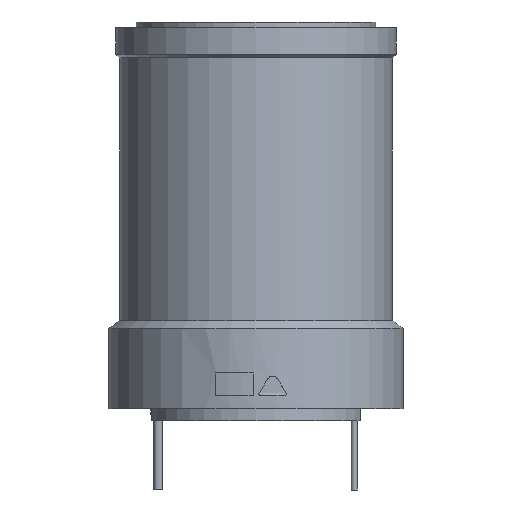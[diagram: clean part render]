
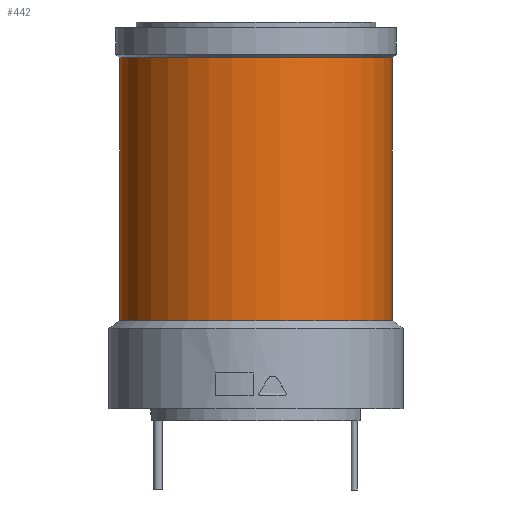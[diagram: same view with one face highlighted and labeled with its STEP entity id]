
A CAD part, left-side view. The second image highlights one B-rep face of the part: STEP entity #442.
In plain terms, the highlighted cylindrical face has radius 122.5 mm (diameter 245 mm), a partial arc.
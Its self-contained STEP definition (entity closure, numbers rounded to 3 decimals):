
#442 = ADVANCED_FACE ( 'NONE', ( #1718 ), #1665, .T. ) ;
#666 = ORIENTED_EDGE ( 'NONE', *, *, #5006, .T. ) ;
#671 = ORIENTED_EDGE ( 'NONE', *, *, #712, .T. ) ;
#705 = ORIENTED_EDGE ( 'NONE', *, *, #4710, .F. ) ;
#712 = EDGE_CURVE ( 'NONE', #4663, #4666, #2165, .T. ) ;
#1661 = DIRECTION ( 'NONE',  ( 0., 0., -1. ) ) ;
#1662 = CARTESIAN_POINT ( 'NONE',  ( 0., 0., -72.556 ) ) ;
#1665 = CYLINDRICAL_SURFACE ( 'NONE', #1710, 122.5 ) ;
#1699 = DIRECTION ( 'NONE',  ( 0., 1., 0. ) ) ;
#1710 = AXIS2_PLACEMENT_3D ( 'NONE', #1662, #1661, #1699 ) ;
#1718 = FACE_OUTER_BOUND ( 'NONE', #4877, .T. ) ;
#2165 = CIRCLE ( 'NONE', #2209, 122.5 ) ;
#2205 = DIRECTION ( 'NONE',  ( 0., 1., 0. ) ) ;
#2206 = DIRECTION ( 'NONE',  ( 0., 0., -1. ) ) ;
#2209 = AXIS2_PLACEMENT_3D ( 'NONE', #2215, #2206, #2205 ) ;
#2215 = CARTESIAN_POINT ( 'NONE',  ( 0., 0., 326. ) ) ;
#2678 = DIRECTION ( 'NONE',  ( 0., 0., -1. ) ) ;
#2679 = VECTOR ( 'NONE', #2678, 1000. ) ;
#2683 = CARTESIAN_POINT ( 'NONE',  ( 0., -122.5, -72.556 ) ) ;
#2684 = LINE ( 'NONE', #2683, #2679 ) ;
#3040 = CARTESIAN_POINT ( 'NONE',  ( 0., 122.5, 326. ) ) ;
#3089 = CARTESIAN_POINT ( 'NONE',  ( 0., -122.5, 326. ) ) ;
#3113 = CARTESIAN_POINT ( 'NONE',  ( 0., 122.5, 90. ) ) ;
#3114 = CARTESIAN_POINT ( 'NONE',  ( 0., -122.5, 90. ) ) ;
#3158 = CARTESIAN_POINT ( 'NONE',  ( 0., 0., 90. ) ) ;
#3172 = DIRECTION ( 'NONE',  ( 0., 1., 0. ) ) ;
#3173 = DIRECTION ( 'NONE',  ( 0., 0., -1. ) ) ;
#3174 = AXIS2_PLACEMENT_3D ( 'NONE', #3158, #3173, #3172 ) ;
#3191 = CIRCLE ( 'NONE', #3174, 122.5 ) ;
#3664 = DIRECTION ( 'NONE',  ( 0., 0., -1. ) ) ;
#3665 = VECTOR ( 'NONE', #3664, 1000. ) ;
#3684 = CARTESIAN_POINT ( 'NONE',  ( 0., 122.5, -72.556 ) ) ;
#3685 = LINE ( 'NONE', #3684, #3665 ) ;
#4187 = ORIENTED_EDGE ( 'NONE', *, *, #4429, .F. ) ;
#4429 = EDGE_CURVE ( 'NONE', #4663, #4676, #2684, .T. ) ;
#4663 = VERTEX_POINT ( 'NONE', #3089 ) ;
#4666 = VERTEX_POINT ( 'NONE', #3040 ) ;
#4676 = VERTEX_POINT ( 'NONE', #3114 ) ;
#4677 = VERTEX_POINT ( 'NONE', #3113 ) ;
#4710 = EDGE_CURVE ( 'NONE', #4676, #4677, #3191, .T. ) ;
#4877 = EDGE_LOOP ( 'NONE', ( #4187, #671, #666, #705 ) ) ;
#5006 = EDGE_CURVE ( 'NONE', #4666, #4677, #3685, .T. ) ;
